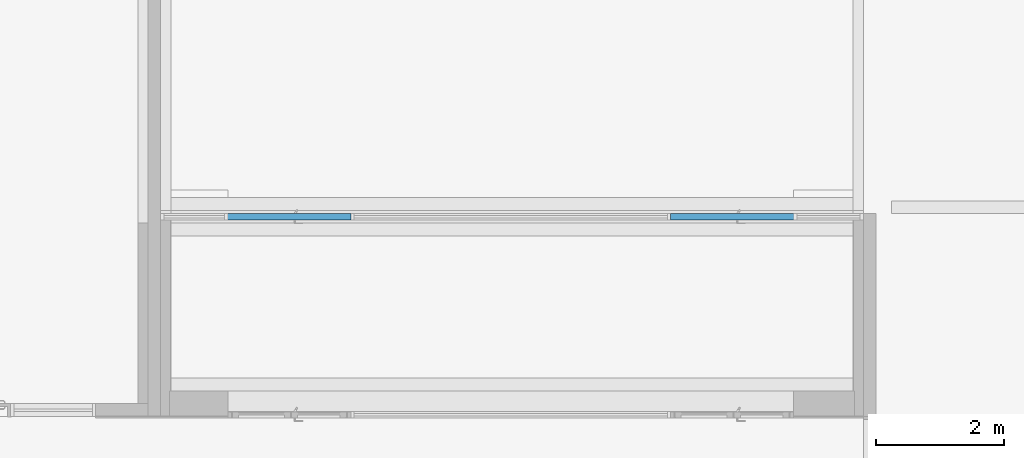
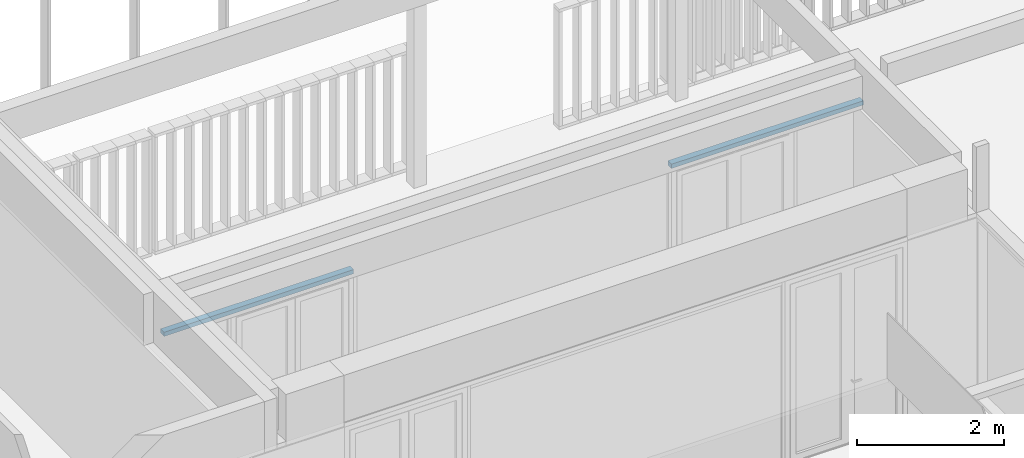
# One storey, part 160 of 240: 1 wall, 5 openings.
"""IFC2X3 building model written with IfcOpenShell, lengths in centimetres."""

from ifc_helpers import new_model, entity, si_unit, converted_unit, derived_unit, direction, frame, frame_2d, origin, origin_2d_with_axis, place, context, subcontext, project, spatial, rectangle, extrude, material, layer, layer_set, layer_usage, type_object, element, save


model = new_model("IFC2X3")

# Units and contexts
model_context = context("Model", 3, precision=0.001, world=origin(), true_north=direction((6.12303176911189e-17, 1.0)))
body_context = subcontext(model_context, "Body", "Model", "MODEL_VIEW")
ifc_project = project(units=[si_unit("LENGTHUNIT", "METRE", prefix="CENTI"), si_unit("AREAUNIT", "SQUARE_METRE"), si_unit("VOLUMEUNIT", "CUBIC_METRE"), converted_unit("PLANEANGLEUNIT", "DEGREE", entity("IfcRatioMeasure", 0.0174532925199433), si_unit("PLANEANGLEUNIT", "RADIAN"), dimensions=[0, 0, 0, 0, 0, 0, 0]), si_unit("MASSUNIT", "GRAM", prefix="KILO"), derived_unit("MASSDENSITYUNIT", [(si_unit("MASSUNIT", "GRAM", prefix="KILO"), 1), (si_unit("LENGTHUNIT", "METRE"), -3)]), si_unit("TIMEUNIT", "SECOND"), si_unit("FREQUENCYUNIT", "HERTZ"), si_unit("THERMODYNAMICTEMPERATUREUNIT", "DEGREE_CELSIUS"), derived_unit("THERMALTRANSMITTANCEUNIT", [(si_unit("MASSUNIT", "GRAM", prefix="KILO"), 1), (si_unit("THERMODYNAMICTEMPERATUREUNIT", "KELVIN"), -1), (si_unit("TIMEUNIT", "SECOND"), -3)]), derived_unit("VOLUMETRICFLOWRATEUNIT", [(si_unit("LENGTHUNIT", "METRE"), 3), (si_unit("TIMEUNIT", "SECOND"), -1)]), si_unit("ELECTRICCURRENTUNIT", "AMPERE"), si_unit("ELECTRICVOLTAGEUNIT", "VOLT"), si_unit("POWERUNIT", "WATT"), si_unit("FORCEUNIT", "NEWTON", prefix="KILO"), si_unit("ILLUMINANCEUNIT", "LUX"), si_unit("LUMINOUSFLUXUNIT", "LUMEN"), si_unit("LUMINOUSINTENSITYUNIT", "CANDELA"), derived_unit("USERDEFINED", [(si_unit("MASSUNIT", "GRAM", prefix="KILO"), -1), (si_unit("LENGTHUNIT", "METRE"), -2), (si_unit("TIMEUNIT", "SECOND"), 3), (si_unit("LUMINOUSFLUXUNIT", "LUMEN"), 1)]), derived_unit("LINEARVELOCITYUNIT", [(si_unit("LENGTHUNIT", "METRE"), 1), (si_unit("TIMEUNIT", "SECOND"), -1)]), si_unit("PRESSUREUNIT", "PASCAL"), derived_unit("USERDEFINED", [(si_unit("LENGTHUNIT", "METRE"), -2), (si_unit("MASSUNIT", "GRAM", prefix="KILO"), 1), (si_unit("TIMEUNIT", "SECOND"), -2)])], contexts=[model_context])

# Site, building, storey
site_placement = place(None, frame((-2781.94577612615, 7442.24238424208, 0.0)))
site = spatial("IfcSite", under=ifc_project, at=site_placement, Name="Default", CompositionType="ELEMENT")
building_placement = place(site_placement, origin())
building = spatial("IfcBuilding", under=site, at=building_placement, CompositionType="ELEMENT")
storey_placement = place(building_placement, origin())
storey = spatial("IfcBuildingStorey", under=building, at=storey_placement, Name="N00 - COO", CompositionType="ELEMENT", Elevation=0.0)

# Wall, openings
ifc_material_1 = material(Name="01 - Enduit/Plâtre")
ifc_layer_1 = layer(ifc_material_1, 1.3)
ifc_material_2 = material(Name="00 - Isolant")
ifc_layer_2 = layer(ifc_material_2, 7.4)
ifc_layer_3 = layer(ifc_material_1, 1.3)
ifc_layer_set = layer_set([ifc_layer_1, ifc_layer_2, ifc_layer_3], Name="Mur de base:06 - cloisons - Ba13 10cm")
ifc_layer_usage = layer_usage(ifc_layer_set, "AXIS2", "NEGATIVE", 5.0)
wall_type = type_object("IfcWallType", Name="Mur de base:06 - cloisons - Ba13 10cm", PredefinedType="STANDARD", material=ifc_layer_set)
wall_placement = place(storey_placement, frame((-4767.99987760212, -517.548500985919, 306.0)))
wall = element("IfcWallStandardCase", 1, at=wall_placement, inside=storey, type_object=wall_type, material=ifc_layer_usage, Name="Mur de base:06 - cloisons - Ba13 10cm", ObjectType="Mur de base:06 - cloisons - Ba13 10cm", context=body_context, shape_type="SweptSolid", body=[
    extrude(rectangle(XDim=1099.99999791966, YDim=10.0000000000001, at=frame_2d((549.999998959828, 3.06421554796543e-14), x_axis=(-1.0, 0.0))), origin(), (0.0, 0.0, 1.0), 6.99999999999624),
])
opening_1_placement = place(wall_placement, origin())
element("IfcOpeningElement", 2, at=opening_1_placement, cuts=wall, Name="Mur de base:06 - cloisons - Ba13 10cm", ObjectType="Opening", context=body_context, shape_type="SweptSolid", body=[
    extrude(rectangle(XDim=306.0, YDim=105.242952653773, at=frame_2d((4.33431068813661e-13, 0.0), x_axis=(0.0, 1.0))), frame((52.6214763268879, -20.2400000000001, -153.0), z_axis=(0.0, 1.0, 0.0), x_axis=(-1.0, 0.0, 0.0)), (0.0, 0.0, 1.0), 40.48),
])
opening_2_placement = place(wall_placement, origin())
element("IfcOpeningElement", 3, at=opening_2_placement, cuts=wall, Name="Mur de base:06 - cloisons - Ba13 10cm", ObjectType="Opening", context=body_context, shape_type="SweptSolid", body=[
    extrude(rectangle(XDim=313.00000000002, YDim=500.0, at=frame_2d((0.0, 4.40536496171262e-13), x_axis=(1.0, 0.0))), frame((547.999997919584, -20.2399999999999, -149.49999999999), z_axis=(0.0, 1.0, 0.0), x_axis=(0.0, 0.0, 1.0)), (0.0, 0.0, 1.0), 40.48),
])
opening_3_placement = place(wall_placement, origin())
element("IfcOpeningElement", 4, at=opening_3_placement, cuts=wall, Name="Mur de base:06 - cloisons - Ba13 10cm", ObjectType="Opening", context=body_context, shape_type="SweptSolid", body=[
    extrude(rectangle(XDim=306.0, YDim=109.242954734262, at=origin_2d_with_axis()), frame((1045.37852055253, -20.2399999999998, -153.0), z_axis=(0.0, 1.0, 0.0), x_axis=(0.0, 0.0, 1.0)), (0.0, 0.0, 1.0), 40.48),
])
opening_4_placement = place(wall_placement, frame((4767.99987760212, 517.548500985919, -306.0)))
element("IfcOpeningElement", 5, at=opening_4_placement, cuts=wall, Name="Mur de base:06 - cloisons - Ba13 10cm", ObjectType="Opening", context=body_context, shape_type="SweptSolid", body=[
    extrude(rectangle(XDim=321.0, YDim=192.757045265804, at=frame_2d((0.0, 2.1316282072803e-13), x_axis=(1.0, 0.0))), frame((-3873.62135704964, -573.748500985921, 145.5), z_axis=(0.0, 1.0, 0.0), x_axis=(0.0, 0.0, -1.0)), (0.0, 0.0, 1.0), 61.2999999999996),
])
opening_5_placement = place(wall_placement, frame((4767.99987760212, 517.548500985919, -306.0)))
element("IfcOpeningElement", 6, at=opening_5_placement, cuts=wall, Name="Mur de base:06 - cloisons - Ba13 10cm", ObjectType="Opening", context=body_context, shape_type="SweptSolid", body=[
    extrude(rectangle(XDim=321.0, YDim=192.757045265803, at=frame_2d((0.0, -4.33431068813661e-13), x_axis=(1.0, 0.0))), frame((-4566.37840231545, -573.748500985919, 145.5), z_axis=(0.0, 1.0, 0.0), x_axis=(0.0, 0.0, -1.0)), (0.0, 0.0, 1.0), 61.2999999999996),
])

save(model, "model.ifc")
